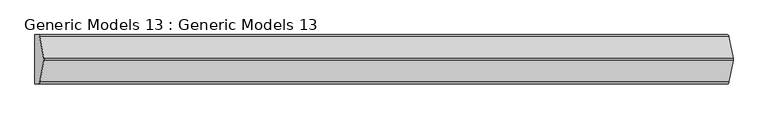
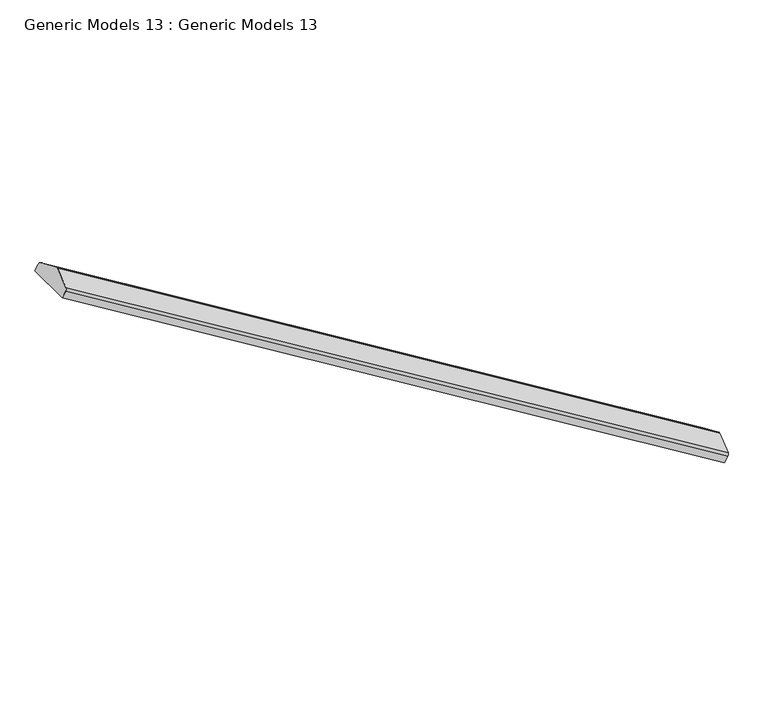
"""IFC4 building model written with IfcOpenShell, lengths in millimetres: proxy geometry, Generic Models 13 : Generic Models 13."""

from ifc_helpers import new_model, si_unit, point, frame, frame_2d, origin, place, context, project, spatial, polyline, circle_curve, trimmed, segment, composite_curve, outline, extrude, source, transform, mapped, element, save


def generic_models_13_generic_models_13_96213cae(model_context):
    return source(origin(), model_context, "Body", "SweptSolid", [
        extrude(outline(composite_curve([segment(polyline([(-120.0, 0.0), (20.0, 0.0), (20.0, -19.2213026)]), True, "CONTINUOUS"), segment(trimmed(circle_curve(frame_2d((11.8, -19.2213026)), 8.2), [point((20.0, -19.2213026))], [point((14.5579584, -26.9435863))], False, "CARTESIAN"), True, "CONTINUOUS"), segment(polyline([(14.5579584, -26.9435863), (-47.2292405, -49.010443)]), True, "CONTINUOUS"), segment(trimmed(circle_curve(frame_2d((-50.0, -41.2523162)), 8.2380604), [point((-47.2292405, -49.010443))], [point((-52.7707596, -49.010443))], False, "CARTESIAN"), True, "CONTINUOUS"), segment(polyline([(-52.7707596, -49.010443), (-114.5579585, -26.9435863)]), True, "CONTINUOUS"), segment(trimmed(circle_curve(frame_2d((-111.8, -19.2213026)), 8.2), [point((-114.5579585, -26.9435863))], [point((-120.0, -19.2213026))], False, "CARTESIAN"), True, "CONTINUOUS"), segment(polyline([(-120.0, -19.2213026), (-120.0, 0.0)]), True, "CONTINUOUS")], self_intersect=False)), frame((15298.9337784, 11716.4728324, 5200.0), z_axis=(-0.85235186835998, 0.0, 0.5229687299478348), x_axis=(0.0, 1.0, 0.0)), (0.0, 0.0, 1.0), 2294.5922601),
    ])


if __name__ == "__main__":
    model = new_model("IFC4")
    model_context = context("Model", 3, world=origin())
    ifc_project = project(units=[si_unit("LENGTHUNIT", "METRE", prefix="MILLI")], contexts=[model_context])
    site = spatial("IfcSite", under=ifc_project)
    building = spatial("IfcBuilding", under=site)
    placement = place(None, origin())
    generic_models_13_generic_models_13_shape = generic_models_13_generic_models_13_96213cae(model_context)
    element("IfcBuildingElementProxy", 1, Name="Generic Models 13 : Generic Models 13", ObjectType="Generic Models 13 : Generic Models 13", at=placement, inside=building, context=model_context, shape_type="MappedRepresentation", body=[
        mapped(generic_models_13_generic_models_13_shape, transform((0.0, 0.0, 0.0), x_axis=(1.0, 0.0, 0.0), y_axis=(0.0, 1.0, 0.0), z_axis=(0.0, 0.0, 1.0))),
    ])
    save(model, "model.ifc")
